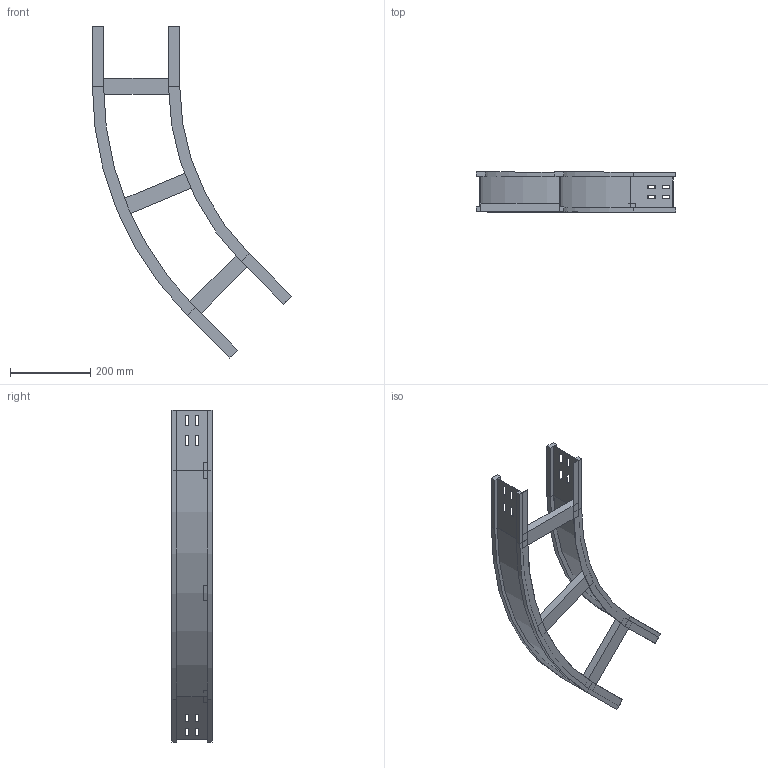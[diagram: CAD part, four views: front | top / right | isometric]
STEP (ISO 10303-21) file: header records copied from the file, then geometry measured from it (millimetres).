
FILE_DESCRIPTION (( 'STEP AP214' ), '1' );
FILE_NAME ('11S6D200.step', '2025-02-21T16:03:37', ( '' ), ( '' ), 'SwSTEP 2.0', 'SolidWorks 2023', '' );
FILE_SCHEMA (( 'AUTOMOTIVE_DESIGN' ));
Length unit declared in the file: millimetre
Products named in the file (4): LONGH.INTERNO 45°_H100_R600; LONGH.ESTERNO 45°_H100_R600+200; TRAVERSINO_200; 11S6D200
Assembly tree (5 placements, depth 2):
  11S6D200
    LONGH.INTERNO 45°_H100_R600
    LONGH.ESTERNO 45°_H100_R600+200
    TRAVERSINO_200  x3
Bounding box: 497.17 x 100 x 828.12 mm (x, y, z)
Volume: 1374500.3 mm3; surface area: 577692.6 mm2
Topology: 5 solids, 5 shells, 158 faces, 396 edges, 248 vertices
Faces by surface type: plane 146, cylinder 12
Entity records: 4477 total; most frequent: CARTESIAN_POINT 758, ORIENTED_EDGE 744, DIRECTION 704, EDGE_CURVE 372, LINE 348, VECTOR 348, VERTEX_POINT 232, EDGE_LOOP 178
